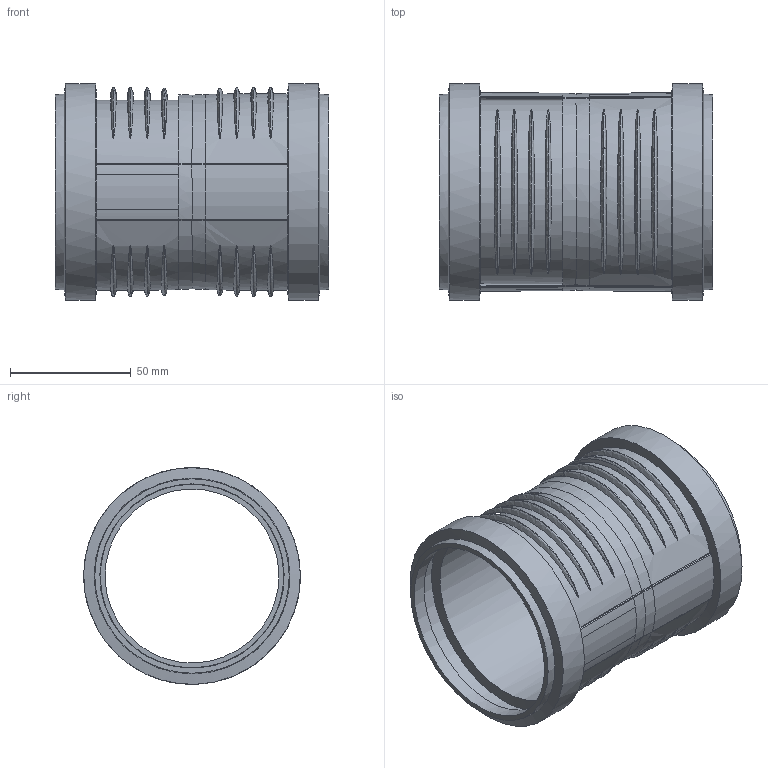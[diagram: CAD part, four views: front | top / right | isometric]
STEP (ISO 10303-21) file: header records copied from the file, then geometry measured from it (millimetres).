
FILE_DESCRIPTION(/* description */ (''),/* implementation_level */ '2;1');
FILE_NAME(/* name */ 'C:\Planerdaten\Export PLA\390.316.14.1\stp\390316.stp',/* time_stamp */ '2022-03-31T11:55:12+02:00',/* author */ ('JANAN'),/* organization */ (''),/* preprocessor_version */ 'ST-DEVELOPER v16.13',/* originating_system */ 'Autodesk Inventor 2018',/* authorisation */ '');
FILE_SCHEMA (('AUTOMOTIVE_DESIGN { 1 0 10303 214 3 1 1 }'));
Length unit declared in the file: millimetre
Products named in the file (1): tmpD219.tmp
Bounding box: 113 x 89.6 x 89.59 mm (x, y, z)
Volume: 86971.4 mm3; surface area: 69926.8 mm2
Topology: 1 solids, 1 shells, 129 faces, 291 edges, 181 vertices
Faces by surface type: bspline 108, cylinder 9, cone 8, plane 4
Full cylindrical faces by diameter (mm): 71.9 x1, 75.9 x2, 76.2 x2, 85 x2, 89.6 x2
Entity records: 13897 total; most frequent: CARTESIAN_POINT 11330, ORIENTED_EDGE 546, DIRECTION 390, EDGE_CURVE 273, AXIS2_PLACEMENT_3D 183, VERTEX_POINT 180, EDGE_LOOP 167, STYLED_ITEM 130
